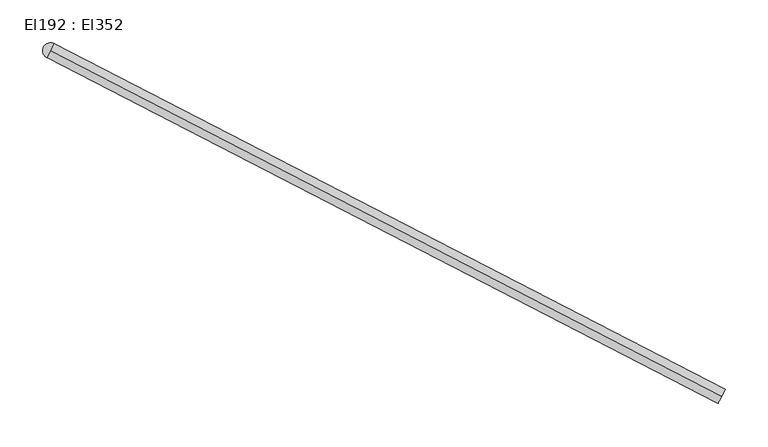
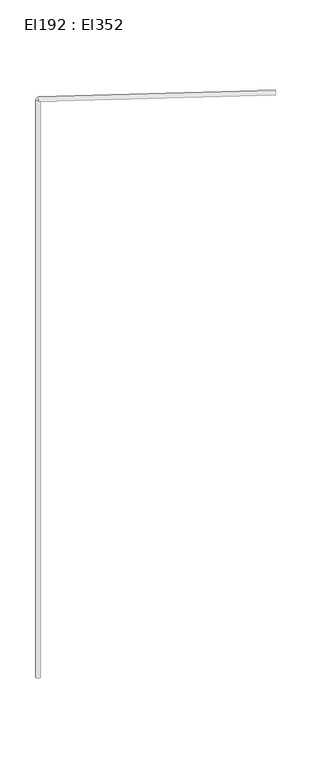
"""IFC4 building model written with IfcOpenShell, lengths in millimetres: cable carrier segment geometry, El192 : El352."""

from ifc_helpers import new_model, si_unit, point, frame, frame_2d, origin, place, context, project, spatial, circle_curve, trimmed, segment, composite_curve, outline, extrude, source, transform, mapped, element, save


def el192_el352_86c433b4(model_context):
    return source(origin(), model_context, "Body", "SweptSolid", [
        extrude(outline(composite_curve([segment(trimmed(circle_curve(frame_2d((0.0, -9.5)), 9.5), [point((0.0, -19.0))], [point((0.0, 0.0))], False, "CARTESIAN"), True, "CONTINUOUS"), segment(trimmed(circle_curve(frame_2d((0.0, -9.5)), 9.5), [point((0.0, 0.0))], [point((0.0, -19.0))], False, "CARTESIAN"), True, "CONTINUOUS")], self_intersect=False)), frame((9350.5833413, 10154.6224579, 4459.5), z_axis=(-0.8887099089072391, 0.45846995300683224, 0.0), x_axis=(-0.45846995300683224, -0.8887099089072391, 0.0)), (0.0, 0.0, 1.0), 884.511),
        extrude(outline(composite_curve([segment(trimmed(circle_curve(frame_2d((8564.5096511, 10560.1441745)), 9.5), [point((8555.0096511, 10560.1441745))], [point((8574.0096511, 10560.1441745))], False, "CARTESIAN"), True, "CONTINUOUS"), segment(trimmed(circle_curve(frame_2d((8564.5096511, 10560.1441745)), 9.5), [point((8574.0096511, 10560.1441745))], [point((8555.0096511, 10560.1441745))], False, "CARTESIAN"), True, "CONTINUOUS")], self_intersect=False)), frame((0.0, 0.0, 1830.0), z_axis=(0.0, 0.0, 1.0), x_axis=(1.0, 0.0, 0.0)), (0.0, 0.0, 1.0), 2620.0),
    ])


if __name__ == "__main__":
    model = new_model("IFC4")
    model_context = context("Model", 3, world=origin())
    ifc_project = project(units=[si_unit("LENGTHUNIT", "METRE", prefix="MILLI")], contexts=[model_context])
    site = spatial("IfcSite", under=ifc_project)
    building = spatial("IfcBuilding", under=site)
    placement = place(None, origin())
    el192_el352_shape = el192_el352_86c433b4(model_context)
    element("IfcCableCarrierSegment", 1, ObjectType="El192 : El352", at=placement, inside=building, context=model_context, shape_type="MappedRepresentation", body=[
        mapped(el192_el352_shape, transform((0.0, 0.0, 0.0), x_axis=(1.0, 0.0, 0.0), y_axis=(0.0, 1.0, 0.0), z_axis=(0.0, 0.0, 1.0))),
    ])
    save(model, "model.ifc")
